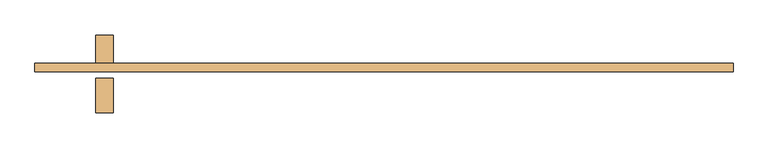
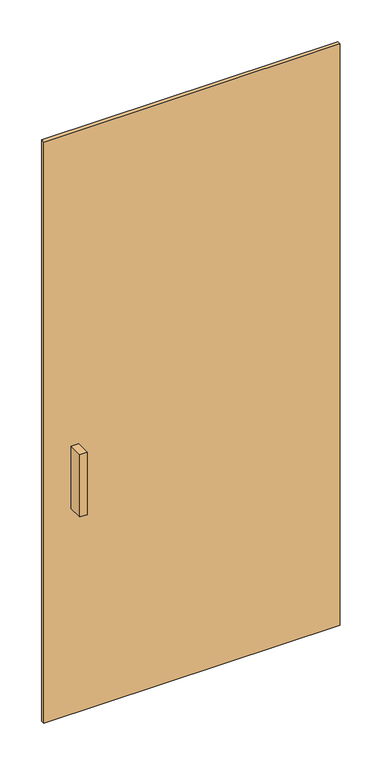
"""IFC4 building model written with IfcOpenShell, lengths in millimetres: door geometry, Дверь-Витраж-Одинарная-Остекление Фронтсайд : Дверь-Витраж-Одинарная-Остекление Фронтсайд."""

import ifcopenshell
import ifcopenshell.guid

model = None  # the IFC model being written
_history = None  # IfcOwnerHistory: only IFC2X3 demands one
_inside = {}  # id of a spatial element -> (the spatial element, [elements in it])
_under = {}  # id of a project, library or spatial element -> (it, [spatial elements below it])
_declared = {}  # id of a project -> (the project, [libraries it declares])
_typed = {}  # id of a type object -> (the type object, [elements of that type])
_made_of = {}  # id of a material, layer set ... -> (it, [elements and type objects made of it])


def new_model(schema):
    """Start an empty IFC model of exactly this schema.

    Asked for "IFC4X3", IfcOpenShell would pick the latest addendum, in which some entities
    have other attributes; the version numbers below select the first issue.
    IFC2X3 requires an IfcOwnerHistory on every rooted entity: one is made here for all.
    """
    global model, _history
    if schema == "IFC4X3":
        model = ifcopenshell.file(schema_version=(4, 3, 0, 0))
    else:
        model = ifcopenshell.file(schema=schema)
    _inside.clear()
    _under.clear()
    _declared.clear()
    _typed.clear()
    _made_of.clear()
    _history = None
    if model.schema == "IFC2X3":
        org = make("IfcOrganization", Name="unknown")
        user = make(
            "IfcPersonAndOrganization",
            ThePerson=make("IfcPerson", FamilyName="unknown"),
            TheOrganization=org,
        )
        app = make(
            "IfcApplication",
            ApplicationDeveloper=org,
            Version="unknown",
            ApplicationFullName="unknown",
            ApplicationIdentifier="unknown",
        )
        _history = make(
            "IfcOwnerHistory",
            OwningUser=user,
            OwningApplication=app,
            ChangeAction="ADDED",
            CreationDate=0,
        )
    return model


def make(cls, **values):
    """One entity of the class cls with the attributes given. An attribute that is None is left unset."""
    return model.create_entity(
        cls, **{name: value for name, value in values.items() if value is not None}
    )


def rooted(cls, **values):
    """An entity with a GlobalId (a new one), such as an element, a storey or a relation."""
    return make(cls, GlobalId=ifcopenshell.guid.new(), OwnerHistory=_history, **values)


def si_unit(unit_type, name, prefix=None):
    """IfcSIUnit, for example si_unit("LENGTHUNIT", "METRE", prefix="MILLI")."""
    return make("IfcSIUnit", UnitType=unit_type, Prefix=prefix, Name=name)


def assignment(units):
    """IfcUnitAssignment: the units of a project."""
    return None if units is None else make("IfcUnitAssignment", Units=units)


def point(xyz):
    """IfcCartesianPoint."""
    return None if xyz is None else make("IfcCartesianPoint", Coordinates=xyz)


def direction(xyz):
    """IfcDirection."""
    return None if xyz is None else make("IfcDirection", DirectionRatios=xyz)


def frame(location, z_axis=None, x_axis=None):
    """IfcAxis2Placement3D, a coordinate frame: its origin and axes. An axis left out is left unset."""
    return make(
        "IfcAxis2Placement3D",
        Location=point(location),
        Axis=direction(z_axis),
        RefDirection=direction(x_axis),
    )


def origin():
    """The frame at (0, 0, 0) with its axes left unset."""
    return frame((0.0, 0.0, 0.0))


def origin_with_axes():
    """The frame at (0, 0, 0) with the z axis (0, 0, 1) and the x axis (1, 0, 0) written out."""
    return frame((0.0, 0.0, 0.0), z_axis=(0.0, 0.0, 1.0), x_axis=(1.0, 0.0, 0.0))


def place(relative_to, where):
    """IfcLocalPlacement: puts the frame where relative to a parent placement (None: the world)."""
    return make(
        "IfcLocalPlacement", PlacementRelTo=relative_to, RelativePlacement=where
    )


def context(
    kind, dimensions, precision=None, world=None, true_north=None, identifier=None
):
    """IfcGeometricRepresentationContext, for example the 3D "Model" context."""
    return make(
        "IfcGeometricRepresentationContext",
        ContextIdentifier=identifier,
        ContextType=kind,
        CoordinateSpaceDimension=dimensions,
        Precision=precision,
        WorldCoordinateSystem=world,
        TrueNorth=true_north,
    )


def project(units=None, contexts=None):
    """IfcProject with its units and contexts."""
    return rooted(
        "IfcProject",
        Name="project",
        RepresentationContexts=contexts,
        UnitsInContext=assignment(units),
    )


def spatial(cls, under=None, at=None, **own):
    """A site, building, storey or space (cls), placed at a placement, below another one or the project."""
    s = rooted(cls, ObjectPlacement=at, **own)
    if under is not None:
        _under.setdefault(under.id(), (under, []))[1].append(s)
    return s


def polyline(points):
    """IfcPolyline through the points."""
    return make("IfcPolyline", Points=[point(p) for p in points])


def outline(outer, holes=None, kind="AREA"):
    """IfcArbitraryClosedProfileDef: a profile drawn as a closed curve; with holes, ...WithVoids."""
    if holes is None:
        return make("IfcArbitraryClosedProfileDef", ProfileType=kind, OuterCurve=outer)
    return make(
        "IfcArbitraryProfileDefWithVoids",
        ProfileType=kind,
        OuterCurve=outer,
        InnerCurves=holes,
    )


def extrude(swept, where, along, depth):
    """IfcExtrudedAreaSolid: the profile swept, set in the frame where, extruded along a direction by depth."""
    return make(
        "IfcExtrudedAreaSolid",
        SweptArea=swept,
        Position=where,
        ExtrudedDirection=direction(along),
        Depth=depth,
    )


def shape(context_of_items, identifier, shape_type, items):
    """IfcShapeRepresentation: the items that make up one representation, for example the "Body"."""
    return make(
        "IfcShapeRepresentation",
        ContextOfItems=context_of_items,
        RepresentationIdentifier=identifier,
        RepresentationType=shape_type,
        Items=items,
    )


def source(mapping_origin, context_of_items, identifier, shape_type, items):
    """IfcRepresentationMap: a shape defined once, which mapped items show again and again."""
    return make(
        "IfcRepresentationMap",
        MappingOrigin=mapping_origin,
        MappedRepresentation=shape(context_of_items, identifier, shape_type, items),
    )


def transform(
    local_origin,
    x_axis=None,
    y_axis=None,
    z_axis=None,
    scale=None,
    scale2=None,
    scale3=None,
    uniform=True,
):
    """IfcCartesianTransformationOperator3D, or its non-uniform kind. x_axis, y_axis, z_axis: its Axis1, 2, 3."""
    if uniform:
        return make(
            "IfcCartesianTransformationOperator3D",
            Axis1=direction(x_axis),
            Axis2=direction(y_axis),
            LocalOrigin=point(local_origin),
            Scale=scale,
            Axis3=direction(z_axis),
        )
    return make(
        "IfcCartesianTransformationOperator3DnonUniform",
        Axis1=direction(x_axis),
        Axis2=direction(y_axis),
        LocalOrigin=point(local_origin),
        Scale=scale,
        Axis3=direction(z_axis),
        Scale2=scale2,
        Scale3=scale3,
    )


def mapped(mapping_source, mapping_target):
    """IfcMappedItem: shows the shape of a source again, moved by a transform."""
    return make(
        "IfcMappedItem", MappingSource=mapping_source, MappingTarget=mapping_target
    )


def made_of(thing, what):
    """Note that an element or type object is made of a material, layer set ...; save() writes the relation."""
    if what is not None:
        _made_of.setdefault(what.id(), (what, []))[1].append(thing)
    return thing


def element(
    cls,
    number,
    at=None,
    inside=None,
    cuts=None,
    type_object=None,
    material=None,
    context=None,
    identifier="Body",
    shape_type=None,
    held_by="IfcProductDefinitionShape",
    body=None,
    shapes=None,
    **own,
):
    """One element of the class cls, such as IfcWall. Its Tag is "e" and its number.

    at: its placement. inside: the storey or other place that contains it. cuts: it is an
    opening in that element (IfcRelVoidsElement). A single representation is given by context,
    identifier, shape_type and body (its items); several are given by shapes. held_by: the class
    of the entity that holds the representations. save() writes the other relations.
    """
    e = rooted(cls, Tag="e%d" % number, ObjectPlacement=at, **own)
    if body is not None:
        shapes = [shape(context, identifier, shape_type, body)]
    if shapes is not None:
        e.Representation = make(held_by, Representations=shapes)
    if inside is not None:
        _inside.setdefault(inside.id(), (inside, []))[1].append(e)
    if cuts is not None:
        rooted(
            "IfcRelVoidsElement", RelatingBuildingElement=cuts, RelatedOpeningElement=e
        )
    if type_object is not None:
        _typed.setdefault(type_object.id(), (type_object, []))[1].append(e)
    return made_of(e, material)


def aggregate(whole, parts):
    """IfcRelAggregates: a whole, such as a stair, and the parts it consists of."""
    return rooted("IfcRelAggregates", RelatingObject=whole, RelatedObjects=parts)


def save(model, path):
    """Write the relations noted so far, then the file.

    IfcRelAggregates (storeys below a building ...), IfcRelContainedInSpatialStructure (elements
    in a storey), IfcRelDefinesByType, IfcRelAssociatesMaterial and IfcRelDeclares: one each for
    every whole, place, type object, material and project.
    """
    for whole, parts in _under.values():
        aggregate(whole, parts)
    for where, things in _inside.values():
        rooted(
            "IfcRelContainedInSpatialStructure",
            RelatedElements=things,
            RelatingStructure=where,
        )
    for kind, things in _typed.values():
        rooted("IfcRelDefinesByType", RelatedObjects=things, RelatingType=kind)
    for what, things in _made_of.values():
        rooted("IfcRelAssociatesMaterial", RelatedObjects=things, RelatingMaterial=what)
    for by, libraries in _declared.values():
        rooted("IfcRelDeclares", RelatingContext=by, RelatedDefinitions=libraries)
    model.write(path)


def door_73c47b8f(model_context):
    return source(origin(), model_context, "Body", "SweptSolid", [
        extrude(outline(polyline([(514.5, 60.0), (514.5, 47.3), (-514.5, 47.3), (-514.5, 60.0), (514.5, 60.0)])), origin_with_axes(), (0.0, 0.0, 1.0), 2133.6),
        extrude(outline(polyline([(-399.1, -12.7), (-424.5, -12.7), (-424.5, 38.1), (-399.1, 38.1), (-399.1, -12.7)])), frame((0.0, 0.0, 762.0), z_axis=(0.0, 0.0, 1.0), x_axis=(1.0, 0.0, 0.0)), (0.0, 0.0, 1.0), 228.6),
        extrude(outline(polyline([(-424.5, 101.6), (-399.1, 101.6), (-399.1, 50.8), (-424.5, 50.8), (-424.5, 101.6)])), frame((0.0, 0.0, 762.0), z_axis=(0.0, 0.0, 1.0), x_axis=(1.0, 0.0, 0.0)), (0.0, 0.0, 1.0), 228.6),
    ])


if __name__ == "__main__":
    model = new_model("IFC4")
    model_context = context("Model", 3, world=origin())
    ifc_project = project(units=[si_unit("LENGTHUNIT", "METRE", prefix="MILLI")], contexts=[model_context])
    site = spatial("IfcSite", under=ifc_project)
    building = spatial("IfcBuilding", under=site)
    placement = place(None, origin())
    door_shape = door_73c47b8f(model_context)
    element("IfcDoor", 1, ObjectType="Дверь-Витраж-Одинарная-Остекление Фронтсайд : Дверь-Витраж-Одинарная-Остекление Фронтсайд", at=placement, inside=building, context=model_context, shape_type="MappedRepresentation", body=[
        mapped(door_shape, transform((0.0, 0.0, 0.0), x_axis=(1.0, 0.0, 0.0), y_axis=(0.0, 1.0, 0.0), z_axis=(0.0, 0.0, 1.0))),
    ])
    save(model, "model.ifc")
